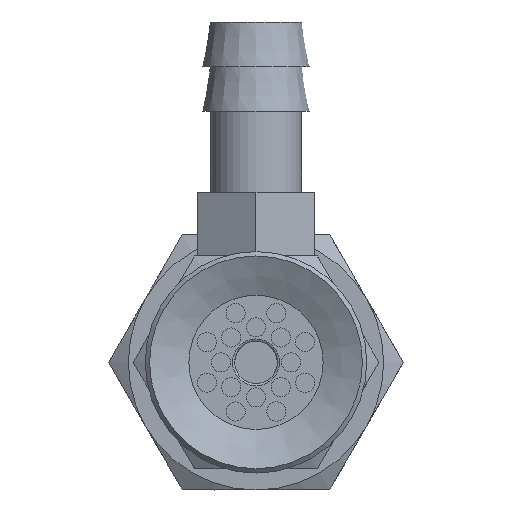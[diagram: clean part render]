
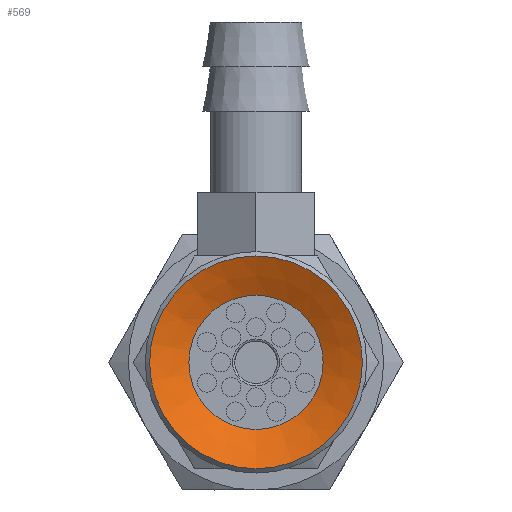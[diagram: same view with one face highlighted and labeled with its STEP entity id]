
A CAD part, front view. The second image highlights one B-rep face of the part: STEP entity #569.
In plain terms, the highlighted conical face has half-angle 64 degrees and reference radius 5 mm.
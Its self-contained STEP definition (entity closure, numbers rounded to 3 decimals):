
#569=ADVANCED_FACE('',(#896,#897),#898,.F.);
#896=FACE_BOUND('',#1309,.T.);
#897=FACE_OUTER_BOUND('',#1310,.T.);
#898=CONICAL_SURFACE('',#1311,5.0,1.117);
#1309=EDGE_LOOP('',(#2169));
#1310=EDGE_LOOP('',(#2170));
#1311=AXIS2_PLACEMENT_3D('',#2171,#2172,#2173);
#2169=ORIENTED_EDGE('',*,*,#2581,.T.);
#2170=ORIENTED_EDGE('',*,*,#2582,.F.);
#2171=CARTESIAN_POINT('',(0.0,0.,0.));
#2172=DIRECTION('',(0.0,0.,-1.0));
#2173=DIRECTION('',(0.0,1.0,0.));
#2581=EDGE_CURVE('',#2962,#2962,#2963,.T.);
#2582=EDGE_CURVE('',#2964,#2964,#2965,.T.);
#2962=VERTEX_POINT('',#3788);
#2963=CIRCLE('',#3789,3.155);
#2964=VERTEX_POINT('',#3790);
#2965=CIRCLE('',#3791,5.0);
#3788=CARTESIAN_POINT('',(0.0,-3.155,0.9));
#3789=AXIS2_PLACEMENT_3D('',#4185,#4186,#4187);
#3790=CARTESIAN_POINT('',(0.0,-5.0,0.));
#3791=AXIS2_PLACEMENT_3D('',#4188,#4189,#4190);
#4185=CARTESIAN_POINT('',(0.0,0.,0.9));
#4186=DIRECTION('',(0.0,0.,1.0));
#4187=DIRECTION('',(0.0,-1.0,0.));
#4188=CARTESIAN_POINT('',(0.0,0.,0.));
#4189=DIRECTION('',(0.0,0.,1.0));
#4190=DIRECTION('',(0.0,-1.0,0.));
